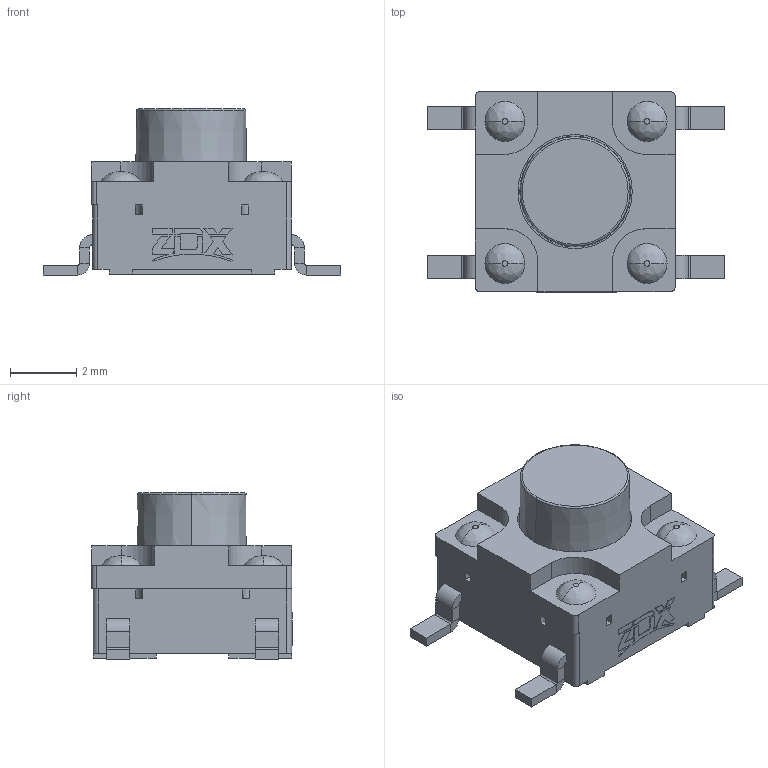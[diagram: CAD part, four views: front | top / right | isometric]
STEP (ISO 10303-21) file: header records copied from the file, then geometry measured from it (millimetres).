
FILE_DESCRIPTION((''),'2;1');
FILE_NAME('ASM0017_ASM','2024-01-04T',('WYH'),(''),'PRO/ENGINEER BY PARAMETRIC TECHNOLOGY CORPORATION, 2013040','PRO/ENGINEER BY PARAMETRIC TECHNOLOGY CORPORATION, 2013040','');
FILE_SCHEMA(('CONFIG_CONTROL_DESIGN'));
Length unit declared in the file: millimetre
Products named in the file (1): ASM0017_ASM
Bounding box: 9 x 6.07 x 5.02 mm (x, y, z)
Volume: 116.5 mm3; surface area: 316.4 mm2
Topology: 1 solids, 16 shells, 410 faces, 996 edges, 638 vertices
Faces by surface type: plane 256, cylinder 126, torus 10, bspline 8, cone 8, sphere 2
Entity records: 12297 total; most frequent: CARTESIAN_POINT 2445, DIRECTION 2084, ORIENTED_EDGE 1992, EDGE_CURVE 996, AXIS2_PLACEMENT_3D 706, VECTOR 672, LINE 672, VERTEX_POINT 638
